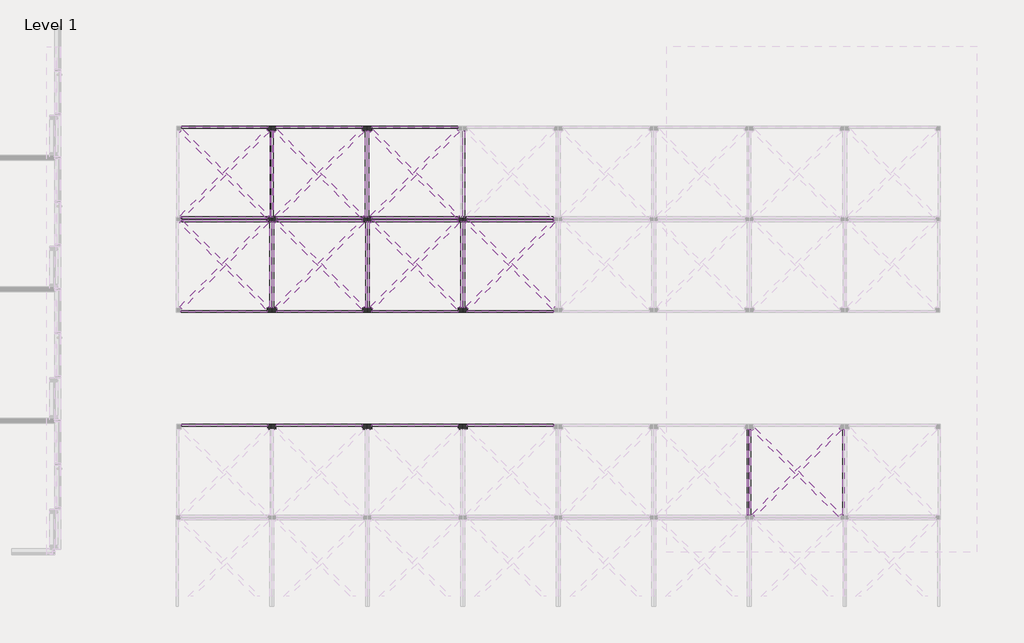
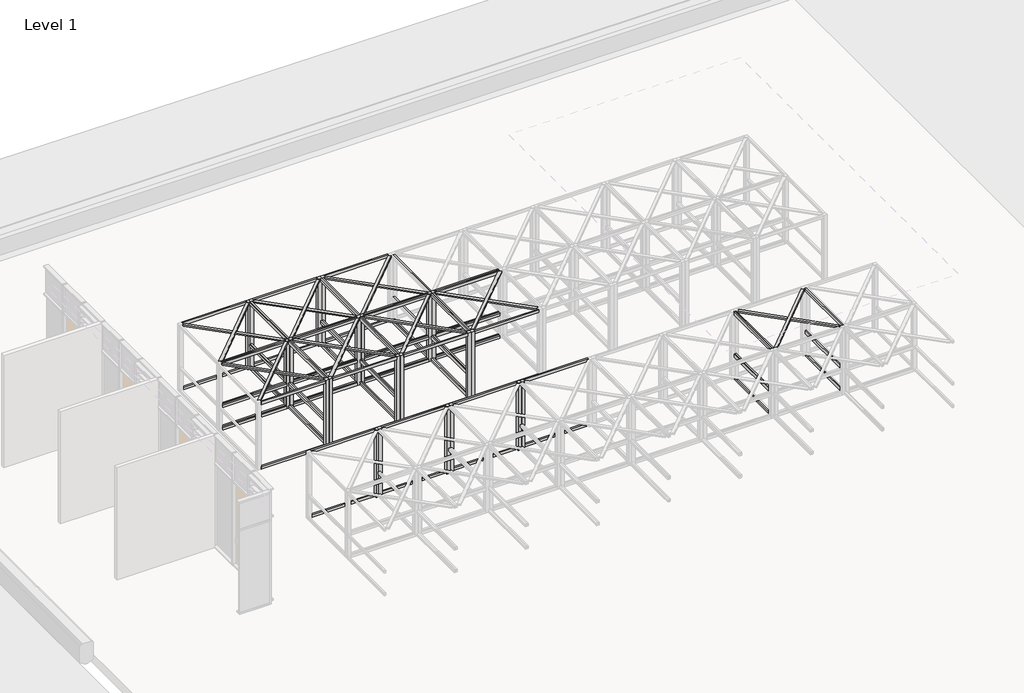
# One storey, part 23 of 32: 104 beams, 28 columns.
"""IFC4 building model written with IfcOpenShell, lengths in millimetres."""

from ifc_helpers import new_model, si_unit, origin, place, context, project, spatial, transform, mapped, element, save
from components import timber_gauged_nz_100_x_50_a05adcf6, timber_gauged_nz_100_x_50_e4b9d06e, timber_gauged_nz_100_x_50_66b63d81, timber_gauged_nz_100_x_50_718b6390, timber_gauged_nz_100_x_50_7774ab14, timber_gauged_nz_100_x_50_be6c7ca1, timber_gauged_nz_100_x_50_6be5a70a, timber_gauged_nz_100_x_50_7b7bee40, timber_gauged_nz_100_x_50_flat_212af973, timber_gauged_nz_100_x_50_flat_8016973c, column_timber_m_114x114_3b5997c2

model = new_model("IFC4")

# Units and contexts
model_context = context("Model", 3, world=origin())
ifc_project = project(units=[si_unit("LENGTHUNIT", "METRE", prefix="MILLI")], contexts=[model_context])

# Site, building, storey
site = spatial("IfcSite", under=ifc_project)
building = spatial("IfcBuilding", under=site)
storey = spatial("IfcBuildingStorey", under=building, Name="Level 1", Elevation=2800.0)

# Beams
placement = place(None, origin())
timber_gauged_nz_100_x_50_shape = timber_gauged_nz_100_x_50_a05adcf6(model_context)
element("IfcBeam", 1, ObjectType="Timber Gauged (NZ) : 100 x 50", at=placement, inside=storey, context=model_context, shape_type="MappedRepresentation", body=[
    mapped(timber_gauged_nz_100_x_50_shape, transform((-79599.6556755, -2611.9011548, 2847.0), x_axis=(1.0, 0.0, 0.0), y_axis=(0.0, 1.0, 0.0), z_axis=(0.0, 0.0, 1.0))),
])
element("IfcBeam", 2, ObjectType="Timber Gauged (NZ) : 100 x 50", at=placement, inside=storey, context=model_context, shape_type="MappedRepresentation", body=[
    mapped(timber_gauged_nz_100_x_50_shape, transform((-77195.3056755, -2611.9011548, 2847.0), x_axis=(1.0, 0.0, 0.0), y_axis=(0.0, 1.0, 0.0), z_axis=(0.0, 0.0, 1.0))),
])
element("IfcBeam", 3, ObjectType="Timber Gauged (NZ) : 100 x 50", at=placement, inside=storey, context=model_context, shape_type="MappedRepresentation", body=[
    mapped(timber_gauged_nz_100_x_50_shape, transform((-74799.6556755, -2611.9011548, 2847.0), x_axis=(1.0, 0.0, 0.0), y_axis=(0.0, 1.0, 0.0), z_axis=(0.0, 0.0, 1.0))),
])
element("IfcBeam", 4, ObjectType="Timber Gauged (NZ) : 100 x 50", at=placement, inside=storey, context=model_context, shape_type="MappedRepresentation", body=[
    mapped(timber_gauged_nz_100_x_50_shape, transform((-72399.6556755, -2611.9011548, 2847.0), x_axis=(1.0, 0.0, 0.0), y_axis=(0.0, 1.0, 0.0), z_axis=(0.0, 0.0, 1.0))),
])
element("IfcBeam", 5, ObjectType="Timber Gauged (NZ) : 100 x 50", at=placement, inside=storey, context=model_context, shape_type="MappedRepresentation", body=[
    mapped(timber_gauged_nz_100_x_50_shape, transform((-72399.6556755, -2682.1175809, 2847.0), x_axis=(-1.0, 0.0, 0.0), y_axis=(0.0, -1.0, 0.0), z_axis=(0.0, 0.0, 1.0))),
])
element("IfcBeam", 6, ObjectType="Timber Gauged (NZ) : 100 x 50", at=placement, inside=storey, context=model_context, shape_type="MappedRepresentation", body=[
    mapped(timber_gauged_nz_100_x_50_shape, transform((-74804.0056755, -2682.1175809, 2847.0), x_axis=(-1.0, 0.0, 0.0), y_axis=(0.0, -1.0, 0.0), z_axis=(0.0, 0.0, 1.0))),
])
element("IfcBeam", 7, ObjectType="Timber Gauged (NZ) : 100 x 50", at=placement, inside=storey, context=model_context, shape_type="MappedRepresentation", body=[
    mapped(timber_gauged_nz_100_x_50_shape, transform((-77208.3556755, -2682.1175809, 2847.0), x_axis=(-1.0, 0.0, 0.0), y_axis=(0.0, -1.0, 0.0), z_axis=(0.0, 0.0, 1.0))),
])
element("IfcBeam", 8, ObjectType="Timber Gauged (NZ) : 100 x 50", at=placement, inside=storey, context=model_context, shape_type="MappedRepresentation", body=[
    mapped(timber_gauged_nz_100_x_50_shape, transform((-79588.3556755, -2682.1175809, 2847.0), x_axis=(-1.0, 0.0, 0.0), y_axis=(0.0, -1.0, 0.0), z_axis=(0.0, 0.0, 1.0))),
])
timber_gauged_nz_100_x_50_2_shape = timber_gauged_nz_100_x_50_e4b9d06e(model_context)
element("IfcBeam", 9, ObjectType="Timber Gauged (NZ) : 100 x 50", at=placement, inside=storey, context=model_context, shape_type="MappedRepresentation", body=[
    mapped(timber_gauged_nz_100_x_50_2_shape, transform((-72386.4806755, -7829.1175809, 2847.0), x_axis=(-1.0, 0.0, 0.0), y_axis=(0.0, -1.0, 0.0), z_axis=(0.0, 0.0, 1.0))),
])
element("IfcBeam", 10, ObjectType="Timber Gauged (NZ) : 100 x 50", at=placement, inside=storey, context=model_context, shape_type="MappedRepresentation", body=[
    mapped(timber_gauged_nz_100_x_50_2_shape, transform((-74790.8306755, -7829.1175809, 2847.0), x_axis=(-1.0, 0.0, 0.0), y_axis=(0.0, -1.0, 0.0), z_axis=(0.0, 0.0, 1.0))),
])
element("IfcBeam", 11, ObjectType="Timber Gauged (NZ) : 100 x 50", at=placement, inside=storey, context=model_context, shape_type="MappedRepresentation", body=[
    mapped(timber_gauged_nz_100_x_50_2_shape, transform((-77195.1806755, -7829.1175809, 2847.0), x_axis=(-1.0, 0.0, 0.0), y_axis=(0.0, -1.0, 0.0), z_axis=(0.0, 0.0, 1.0))),
])
element("IfcBeam", 12, ObjectType="Timber Gauged (NZ) : 100 x 50", at=placement, inside=storey, context=model_context, shape_type="MappedRepresentation", body=[
    mapped(timber_gauged_nz_100_x_50_2_shape, transform((-79575.1806755, -7829.1175809, 2847.0), x_axis=(-1.0, 0.0, 0.0), y_axis=(0.0, -1.0, 0.0), z_axis=(0.0, 0.0, 1.0))),
])
element("IfcBeam", 13, ObjectType="Timber Gauged (NZ) : 100 x 50", at=placement, inside=storey, context=model_context, shape_type="MappedRepresentation", body=[
    mapped(timber_gauged_nz_100_x_50_2_shape, transform((-79612.8306755, -4964.9011548, 2847.0), x_axis=(1.0, 0.0, 0.0), y_axis=(0.0, 1.0, 0.0), z_axis=(0.0, 0.0, 1.0))),
])
element("IfcBeam", 14, ObjectType="Timber Gauged (NZ) : 100 x 50", at=placement, inside=storey, context=model_context, shape_type="MappedRepresentation", body=[
    mapped(timber_gauged_nz_100_x_50_2_shape, transform((-77208.4806755, -4964.9011548, 2847.0), x_axis=(1.0, 0.0, 0.0), y_axis=(0.0, 1.0, 0.0), z_axis=(0.0, 0.0, 1.0))),
])
element("IfcBeam", 15, ObjectType="Timber Gauged (NZ) : 100 x 50", at=placement, inside=storey, context=model_context, shape_type="MappedRepresentation", body=[
    mapped(timber_gauged_nz_100_x_50_2_shape, transform((-74812.8306755, -4964.9011548, 2847.0), x_axis=(1.0, 0.0, 0.0), y_axis=(0.0, 1.0, 0.0), z_axis=(0.0, 0.0, 1.0))),
])
element("IfcBeam", 16, ObjectType="Timber Gauged (NZ) : 100 x 50", at=placement, inside=storey, context=model_context, shape_type="MappedRepresentation", body=[
    mapped(timber_gauged_nz_100_x_50_2_shape, transform((-72412.8306755, -4964.9011548, 2847.0), x_axis=(1.0, 0.0, 0.0), y_axis=(0.0, 1.0, 0.0), z_axis=(0.0, 0.0, 1.0))),
])
element("IfcBeam", 17, ObjectType="Timber Gauged (NZ) : 100 x 50", at=placement, inside=storey, context=model_context, shape_type="MappedRepresentation", body=[
    mapped(timber_gauged_nz_100_x_50_2_shape, transform((-74790.8306755, -329.1175809, 2847.0), x_axis=(-1.0, 0.0, 0.0), y_axis=(0.0, -1.0, 0.0), z_axis=(0.0, 0.0, 1.0))),
])
element("IfcBeam", 18, ObjectType="Timber Gauged (NZ) : 100 x 50", at=placement, inside=storey, context=model_context, shape_type="MappedRepresentation", body=[
    mapped(timber_gauged_nz_100_x_50_2_shape, transform((-77195.1806755, -329.1175809, 2847.0), x_axis=(-1.0, 0.0, 0.0), y_axis=(0.0, -1.0, 0.0), z_axis=(0.0, 0.0, 1.0))),
])
element("IfcBeam", 19, ObjectType="Timber Gauged (NZ) : 100 x 50", at=placement, inside=storey, context=model_context, shape_type="MappedRepresentation", body=[
    mapped(timber_gauged_nz_100_x_50_2_shape, transform((-79575.1806755, -329.1175809, 2847.0), x_axis=(-1.0, 0.0, 0.0), y_axis=(0.0, -1.0, 0.0), z_axis=(0.0, 0.0, 1.0))),
])
timber_gauged_nz_100_x_50_3_shape = timber_gauged_nz_100_x_50_66b63d81(model_context)
element("IfcBeam", 20, ObjectType="Timber Gauged (NZ) : 100 x 50", at=placement, inside=storey, context=model_context, shape_type="MappedRepresentation", body=[
    mapped(timber_gauged_nz_100_x_50_3_shape, transform((-64027.5056755, -9005.6175809, 2847.0), x_axis=(0.0, 1.0, 0.0), y_axis=(-1.0, 0.0, 0.0), z_axis=(0.0, 0.0, 1.0))),
])
element("IfcBeam", 21, ObjectType="Timber Gauged (NZ) : 100 x 50", at=placement, inside=storey, context=model_context, shape_type="MappedRepresentation", body=[
    mapped(timber_gauged_nz_100_x_50_3_shape, transform((-66423.1556755, -9005.6175809, 2847.0), x_axis=(0.0, 1.0, 0.0), y_axis=(-1.0, 0.0, 0.0), z_axis=(0.0, 0.0, 1.0))),
])
element("IfcBeam", 22, ObjectType="Timber Gauged (NZ) : 100 x 50", at=placement, inside=storey, context=model_context, shape_type="MappedRepresentation", body=[
    mapped(timber_gauged_nz_100_x_50_3_shape, transform((-78371.8056755, -3788.4011548, 2847.0), x_axis=(0.0, -1.0, 0.0), y_axis=(1.0, 0.0, 0.0), z_axis=(0.0, 0.0, 1.0))),
])
element("IfcBeam", 23, ObjectType="Timber Gauged (NZ) : 100 x 50", at=placement, inside=storey, context=model_context, shape_type="MappedRepresentation", body=[
    mapped(timber_gauged_nz_100_x_50_3_shape, transform((-75976.1556755, -3788.4011548, 2847.0), x_axis=(0.0, -1.0, 0.0), y_axis=(1.0, 0.0, 0.0), z_axis=(0.0, 0.0, 1.0))),
])
element("IfcBeam", 24, ObjectType="Timber Gauged (NZ) : 100 x 50", at=placement, inside=storey, context=model_context, shape_type="MappedRepresentation", body=[
    mapped(timber_gauged_nz_100_x_50_3_shape, transform((-73576.1556755, -3788.4011548, 2847.0), x_axis=(0.0, -1.0, 0.0), y_axis=(1.0, 0.0, 0.0), z_axis=(0.0, 0.0, 1.0))),
])
element("IfcBeam", 25, ObjectType="Timber Gauged (NZ) : 100 x 50", at=placement, inside=storey, context=model_context, shape_type="MappedRepresentation", body=[
    mapped(timber_gauged_nz_100_x_50_3_shape, transform((-73627.5056755, -1505.6175809, 2847.0), x_axis=(0.0, 1.0, 0.0), y_axis=(-1.0, 0.0, 0.0), z_axis=(0.0, 0.0, 1.0))),
])
element("IfcBeam", 26, ObjectType="Timber Gauged (NZ) : 100 x 50", at=placement, inside=storey, context=model_context, shape_type="MappedRepresentation", body=[
    mapped(timber_gauged_nz_100_x_50_3_shape, transform((-76031.8556755, -1505.6175809, 2847.0), x_axis=(0.0, 1.0, 0.0), y_axis=(-1.0, 0.0, 0.0), z_axis=(0.0, 0.0, 1.0))),
])
element("IfcBeam", 27, ObjectType="Timber Gauged (NZ) : 100 x 50", at=placement, inside=storey, context=model_context, shape_type="MappedRepresentation", body=[
    mapped(timber_gauged_nz_100_x_50_3_shape, transform((-78411.8556755, -1505.6175809, 2847.0), x_axis=(0.0, 1.0, 0.0), y_axis=(-1.0, 0.0, 0.0), z_axis=(0.0, 0.0, 1.0))),
])
element("IfcBeam", 28, ObjectType="Timber Gauged (NZ) : 100 x 50", at=placement, inside=storey, context=model_context, shape_type="MappedRepresentation", body=[
    mapped(timber_gauged_nz_100_x_50_3_shape, transform((-78423.1556755, -3788.4011548, 2847.0), x_axis=(0.0, -1.0, 0.0), y_axis=(1.0, 0.0, 0.0), z_axis=(0.0, 0.0, 1.0))),
])
element("IfcBeam", 29, ObjectType="Timber Gauged (NZ) : 100 x 50", at=placement, inside=storey, context=model_context, shape_type="MappedRepresentation", body=[
    mapped(timber_gauged_nz_100_x_50_3_shape, transform((-76018.8056755, -3788.4011548, 2847.0), x_axis=(0.0, -1.0, 0.0), y_axis=(1.0, 0.0, 0.0), z_axis=(0.0, 0.0, 1.0))),
])
element("IfcBeam", 30, ObjectType="Timber Gauged (NZ) : 100 x 50", at=placement, inside=storey, context=model_context, shape_type="MappedRepresentation", body=[
    mapped(timber_gauged_nz_100_x_50_3_shape, transform((-73623.1556755, -3788.4011548, 2847.0), x_axis=(0.0, -1.0, 0.0), y_axis=(1.0, 0.0, 0.0), z_axis=(0.0, 0.0, 1.0))),
])
element("IfcBeam", 31, ObjectType="Timber Gauged (NZ) : 100 x 50", at=placement, inside=storey, context=model_context, shape_type="MappedRepresentation", body=[
    mapped(timber_gauged_nz_100_x_50_3_shape, transform((-73576.1556755, -1505.6175809, 2847.0), x_axis=(0.0, 1.0, 0.0), y_axis=(-1.0, 0.0, 0.0), z_axis=(0.0, 0.0, 1.0))),
])
element("IfcBeam", 32, ObjectType="Timber Gauged (NZ) : 100 x 50", at=placement, inside=storey, context=model_context, shape_type="MappedRepresentation", body=[
    mapped(timber_gauged_nz_100_x_50_3_shape, transform((-75980.5056755, -1505.6175809, 2847.0), x_axis=(0.0, 1.0, 0.0), y_axis=(-1.0, 0.0, 0.0), z_axis=(0.0, 0.0, 1.0))),
])
element("IfcBeam", 33, ObjectType="Timber Gauged (NZ) : 100 x 50", at=placement, inside=storey, context=model_context, shape_type="MappedRepresentation", body=[
    mapped(timber_gauged_nz_100_x_50_3_shape, transform((-78384.8556755, -1505.6175809, 2847.0), x_axis=(0.0, 1.0, 0.0), y_axis=(-1.0, 0.0, 0.0), z_axis=(0.0, 0.0, 1.0))),
])
timber_gauged_nz_100_x_50_4_shape = timber_gauged_nz_100_x_50_718b6390(model_context)
element("IfcBeam", 34, ObjectType="Timber Gauged (NZ) : 100 x 50", at=placement, inside=storey, context=model_context, shape_type="MappedRepresentation", body=[
    mapped(timber_gauged_nz_100_x_50_4_shape, transform((-79607.5056755, -2611.9011548, 5153.0), x_axis=(1.0, 0.0, 0.0), y_axis=(0.0, 1.0, 0.0), z_axis=(0.0, 0.0, 1.0))),
])
element("IfcBeam", 35, ObjectType="Timber Gauged (NZ) : 100 x 50", at=placement, inside=storey, context=model_context, shape_type="MappedRepresentation", body=[
    mapped(timber_gauged_nz_100_x_50_4_shape, transform((-79607.5056755, -2611.9011548, 3653.0), x_axis=(1.0, 0.0, 0.0), y_axis=(0.0, 1.0, 0.0), z_axis=(0.0, 0.0, 1.0))),
])
element("IfcBeam", 36, ObjectType="Timber Gauged (NZ) : 100 x 50", at=placement, inside=storey, context=model_context, shape_type="MappedRepresentation", body=[
    mapped(timber_gauged_nz_100_x_50_4_shape, transform((-77203.1556755, -2611.9011548, 5153.0), x_axis=(1.0, 0.0, 0.0), y_axis=(0.0, 1.0, 0.0), z_axis=(0.0, 0.0, 1.0))),
])
element("IfcBeam", 37, ObjectType="Timber Gauged (NZ) : 100 x 50", at=placement, inside=storey, context=model_context, shape_type="MappedRepresentation", body=[
    mapped(timber_gauged_nz_100_x_50_4_shape, transform((-77203.1556755, -2611.9011548, 3653.0), x_axis=(1.0, 0.0, 0.0), y_axis=(0.0, 1.0, 0.0), z_axis=(0.0, 0.0, 1.0))),
])
element("IfcBeam", 38, ObjectType="Timber Gauged (NZ) : 100 x 50", at=placement, inside=storey, context=model_context, shape_type="MappedRepresentation", body=[
    mapped(timber_gauged_nz_100_x_50_4_shape, transform((-74807.5056755, -2611.9011548, 5153.0), x_axis=(1.0, 0.0, 0.0), y_axis=(0.0, 1.0, 0.0), z_axis=(0.0, 0.0, 1.0))),
])
element("IfcBeam", 39, ObjectType="Timber Gauged (NZ) : 100 x 50", at=placement, inside=storey, context=model_context, shape_type="MappedRepresentation", body=[
    mapped(timber_gauged_nz_100_x_50_4_shape, transform((-74807.5056755, -2611.9011548, 3653.0), x_axis=(1.0, 0.0, 0.0), y_axis=(0.0, 1.0, 0.0), z_axis=(0.0, 0.0, 1.0))),
])
element("IfcBeam", 40, ObjectType="Timber Gauged (NZ) : 100 x 50", at=placement, inside=storey, context=model_context, shape_type="MappedRepresentation", body=[
    mapped(timber_gauged_nz_100_x_50_4_shape, transform((-72407.5056755, -2611.9011548, 5153.0), x_axis=(1.0, 0.0, 0.0), y_axis=(0.0, 1.0, 0.0), z_axis=(0.0, 0.0, 1.0))),
])
element("IfcBeam", 41, ObjectType="Timber Gauged (NZ) : 100 x 50", at=placement, inside=storey, context=model_context, shape_type="MappedRepresentation", body=[
    mapped(timber_gauged_nz_100_x_50_4_shape, transform((-72407.5056755, -2611.9011548, 3653.0), x_axis=(1.0, 0.0, 0.0), y_axis=(0.0, 1.0, 0.0), z_axis=(0.0, 0.0, 1.0))),
])
element("IfcBeam", 42, ObjectType="Timber Gauged (NZ) : 100 x 50", at=placement, inside=storey, context=model_context, shape_type="MappedRepresentation", body=[
    mapped(timber_gauged_nz_100_x_50_4_shape, transform((-72391.8056755, -2682.1175809, 5153.0), x_axis=(-1.0, 0.0, 0.0), y_axis=(0.0, -1.0, 0.0), z_axis=(0.0, 0.0, 1.0))),
])
element("IfcBeam", 43, ObjectType="Timber Gauged (NZ) : 100 x 50", at=placement, inside=storey, context=model_context, shape_type="MappedRepresentation", body=[
    mapped(timber_gauged_nz_100_x_50_4_shape, transform((-72391.8056755, -2682.1175809, 3653.0), x_axis=(-1.0, 0.0, 0.0), y_axis=(0.0, -1.0, 0.0), z_axis=(0.0, 0.0, 1.0))),
])
element("IfcBeam", 44, ObjectType="Timber Gauged (NZ) : 100 x 50", at=placement, inside=storey, context=model_context, shape_type="MappedRepresentation", body=[
    mapped(timber_gauged_nz_100_x_50_4_shape, transform((-74796.1556755, -2682.1175809, 5153.0), x_axis=(-1.0, 0.0, 0.0), y_axis=(0.0, -1.0, 0.0), z_axis=(0.0, 0.0, 1.0))),
])
element("IfcBeam", 45, ObjectType="Timber Gauged (NZ) : 100 x 50", at=placement, inside=storey, context=model_context, shape_type="MappedRepresentation", body=[
    mapped(timber_gauged_nz_100_x_50_4_shape, transform((-74796.1556755, -2682.1175809, 3653.0), x_axis=(-1.0, 0.0, 0.0), y_axis=(0.0, -1.0, 0.0), z_axis=(0.0, 0.0, 1.0))),
])
element("IfcBeam", 46, ObjectType="Timber Gauged (NZ) : 100 x 50", at=placement, inside=storey, context=model_context, shape_type="MappedRepresentation", body=[
    mapped(timber_gauged_nz_100_x_50_4_shape, transform((-77200.5056755, -2682.1175809, 5153.0), x_axis=(-1.0, 0.0, 0.0), y_axis=(0.0, -1.0, 0.0), z_axis=(0.0, 0.0, 1.0))),
])
element("IfcBeam", 47, ObjectType="Timber Gauged (NZ) : 100 x 50", at=placement, inside=storey, context=model_context, shape_type="MappedRepresentation", body=[
    mapped(timber_gauged_nz_100_x_50_4_shape, transform((-77200.5056755, -2682.1175809, 3653.0), x_axis=(-1.0, 0.0, 0.0), y_axis=(0.0, -1.0, 0.0), z_axis=(0.0, 0.0, 1.0))),
])
element("IfcBeam", 48, ObjectType="Timber Gauged (NZ) : 100 x 50", at=placement, inside=storey, context=model_context, shape_type="MappedRepresentation", body=[
    mapped(timber_gauged_nz_100_x_50_4_shape, transform((-79580.5056755, -2682.1175809, 5153.0), x_axis=(-1.0, 0.0, 0.0), y_axis=(0.0, -1.0, 0.0), z_axis=(0.0, 0.0, 1.0))),
])
element("IfcBeam", 49, ObjectType="Timber Gauged (NZ) : 100 x 50", at=placement, inside=storey, context=model_context, shape_type="MappedRepresentation", body=[
    mapped(timber_gauged_nz_100_x_50_4_shape, transform((-79580.5056755, -2682.1175809, 3653.0), x_axis=(-1.0, 0.0, 0.0), y_axis=(0.0, -1.0, 0.0), z_axis=(0.0, 0.0, 1.0))),
])
timber_gauged_nz_100_x_50_5_shape = timber_gauged_nz_100_x_50_7774ab14(model_context)
element("IfcBeam", 50, ObjectType="Timber Gauged (NZ) : 100 x 50", at=placement, inside=storey, context=model_context, shape_type="MappedRepresentation", body=[
    mapped(timber_gauged_nz_100_x_50_5_shape, transform((-72404.3056755, -7829.1175809, 5153.0), x_axis=(-1.0, 0.0, 0.0), y_axis=(0.0, -1.0, 0.0), z_axis=(0.0, 0.0, 1.0))),
])
element("IfcBeam", 51, ObjectType="Timber Gauged (NZ) : 100 x 50", at=placement, inside=storey, context=model_context, shape_type="MappedRepresentation", body=[
    mapped(timber_gauged_nz_100_x_50_5_shape, transform((-74808.6556755, -7829.1175809, 5153.0), x_axis=(-1.0, 0.0, 0.0), y_axis=(0.0, -1.0, 0.0), z_axis=(0.0, 0.0, 1.0))),
])
element("IfcBeam", 52, ObjectType="Timber Gauged (NZ) : 100 x 50", at=placement, inside=storey, context=model_context, shape_type="MappedRepresentation", body=[
    mapped(timber_gauged_nz_100_x_50_5_shape, transform((-77213.0056755, -7829.1175809, 5153.0), x_axis=(-1.0, 0.0, 0.0), y_axis=(0.0, -1.0, 0.0), z_axis=(0.0, 0.0, 1.0))),
])
element("IfcBeam", 53, ObjectType="Timber Gauged (NZ) : 100 x 50", at=placement, inside=storey, context=model_context, shape_type="MappedRepresentation", body=[
    mapped(timber_gauged_nz_100_x_50_5_shape, transform((-79593.0056755, -7829.1175809, 5153.0), x_axis=(-1.0, 0.0, 0.0), y_axis=(0.0, -1.0, 0.0), z_axis=(0.0, 0.0, 1.0))),
])
element("IfcBeam", 54, ObjectType="Timber Gauged (NZ) : 100 x 50", at=placement, inside=storey, context=model_context, shape_type="MappedRepresentation", body=[
    mapped(timber_gauged_nz_100_x_50_5_shape, transform((-79595.0056755, -4964.9011548, 5153.0), x_axis=(1.0, 0.0, 0.0), y_axis=(0.0, 1.0, 0.0), z_axis=(0.0, 0.0, 1.0))),
])
element("IfcBeam", 55, ObjectType="Timber Gauged (NZ) : 100 x 50", at=placement, inside=storey, context=model_context, shape_type="MappedRepresentation", body=[
    mapped(timber_gauged_nz_100_x_50_5_shape, transform((-77190.6556755, -4964.9011548, 5153.0), x_axis=(1.0, 0.0, 0.0), y_axis=(0.0, 1.0, 0.0), z_axis=(0.0, 0.0, 1.0))),
])
element("IfcBeam", 56, ObjectType="Timber Gauged (NZ) : 100 x 50", at=placement, inside=storey, context=model_context, shape_type="MappedRepresentation", body=[
    mapped(timber_gauged_nz_100_x_50_5_shape, transform((-74795.0056755, -4964.9011548, 5153.0), x_axis=(1.0, 0.0, 0.0), y_axis=(0.0, 1.0, 0.0), z_axis=(0.0, 0.0, 1.0))),
])
element("IfcBeam", 57, ObjectType="Timber Gauged (NZ) : 100 x 50", at=placement, inside=storey, context=model_context, shape_type="MappedRepresentation", body=[
    mapped(timber_gauged_nz_100_x_50_5_shape, transform((-72395.0056755, -4964.9011548, 5153.0), x_axis=(1.0, 0.0, 0.0), y_axis=(0.0, 1.0, 0.0), z_axis=(0.0, 0.0, 1.0))),
])
element("IfcBeam", 58, ObjectType="Timber Gauged (NZ) : 100 x 50", at=placement, inside=storey, context=model_context, shape_type="MappedRepresentation", body=[
    mapped(timber_gauged_nz_100_x_50_5_shape, transform((-74808.6556755, -329.1175809, 5153.0), x_axis=(-1.0, 0.0, 0.0), y_axis=(0.0, -1.0, 0.0), z_axis=(0.0, 0.0, 1.0))),
])
element("IfcBeam", 59, ObjectType="Timber Gauged (NZ) : 100 x 50", at=placement, inside=storey, context=model_context, shape_type="MappedRepresentation", body=[
    mapped(timber_gauged_nz_100_x_50_5_shape, transform((-77213.0056755, -329.1175809, 5153.0), x_axis=(-1.0, 0.0, 0.0), y_axis=(0.0, -1.0, 0.0), z_axis=(0.0, 0.0, 1.0))),
])
element("IfcBeam", 60, ObjectType="Timber Gauged (NZ) : 100 x 50", at=placement, inside=storey, context=model_context, shape_type="MappedRepresentation", body=[
    mapped(timber_gauged_nz_100_x_50_5_shape, transform((-79593.0056755, -329.1175809, 5153.0), x_axis=(-1.0, 0.0, 0.0), y_axis=(0.0, -1.0, 0.0), z_axis=(0.0, 0.0, 1.0))),
])
timber_gauged_nz_100_x_50_6_shape = timber_gauged_nz_100_x_50_be6c7ca1(model_context)
element("IfcBeam", 61, ObjectType="Timber Gauged (NZ) : 100 x 50", at=placement, inside=storey, context=model_context, shape_type="MappedRepresentation", body=[
    mapped(timber_gauged_nz_100_x_50_6_shape, transform((-64027.5056755, -9074.1175809, 5153.0), x_axis=(0.0, 1.0, 0.0), y_axis=(-1.0, 0.0, 0.0), z_axis=(0.0, 0.0, 1.0))),
])
element("IfcBeam", 62, ObjectType="Timber Gauged (NZ) : 100 x 50", at=placement, inside=storey, context=model_context, shape_type="MappedRepresentation", body=[
    mapped(timber_gauged_nz_100_x_50_6_shape, transform((-66423.1556755, -9074.1175809, 5153.0), x_axis=(0.0, 1.0, 0.0), y_axis=(-1.0, 0.0, 0.0), z_axis=(0.0, 0.0, 1.0))),
])
element("IfcBeam", 63, ObjectType="Timber Gauged (NZ) : 100 x 50", at=placement, inside=storey, context=model_context, shape_type="MappedRepresentation", body=[
    mapped(timber_gauged_nz_100_x_50_6_shape, transform((-78371.8056755, -3719.9011548, 5153.0), x_axis=(0.0, -1.0, 0.0), y_axis=(1.0, 0.0, 0.0), z_axis=(0.0, 0.0, 1.0))),
])
element("IfcBeam", 64, ObjectType="Timber Gauged (NZ) : 100 x 50", at=placement, inside=storey, context=model_context, shape_type="MappedRepresentation", body=[
    mapped(timber_gauged_nz_100_x_50_6_shape, transform((-75976.1556755, -3719.9011548, 5153.0), x_axis=(0.0, -1.0, 0.0), y_axis=(1.0, 0.0, 0.0), z_axis=(0.0, 0.0, 1.0))),
])
element("IfcBeam", 65, ObjectType="Timber Gauged (NZ) : 100 x 50", at=placement, inside=storey, context=model_context, shape_type="MappedRepresentation", body=[
    mapped(timber_gauged_nz_100_x_50_6_shape, transform((-73576.1556755, -3719.9011548, 5153.0), x_axis=(0.0, -1.0, 0.0), y_axis=(1.0, 0.0, 0.0), z_axis=(0.0, 0.0, 1.0))),
])
element("IfcBeam", 66, ObjectType="Timber Gauged (NZ) : 100 x 50", at=placement, inside=storey, context=model_context, shape_type="MappedRepresentation", body=[
    mapped(timber_gauged_nz_100_x_50_6_shape, transform((-76031.8556755, -1574.1175809, 5153.0), x_axis=(0.0, 1.0, 0.0), y_axis=(-1.0, 0.0, 0.0), z_axis=(0.0, 0.0, 1.0))),
])
element("IfcBeam", 67, ObjectType="Timber Gauged (NZ) : 100 x 50", at=placement, inside=storey, context=model_context, shape_type="MappedRepresentation", body=[
    mapped(timber_gauged_nz_100_x_50_6_shape, transform((-78411.8556755, -1574.1175809, 5153.0), x_axis=(0.0, 1.0, 0.0), y_axis=(-1.0, 0.0, 0.0), z_axis=(0.0, 0.0, 1.0))),
])
timber_gauged_nz_100_x_50_7_shape = timber_gauged_nz_100_x_50_6be5a70a(model_context)
element("IfcBeam", 68, ObjectType="Timber Gauged (NZ) : 100 x 50", at=placement, inside=storey, context=model_context, shape_type="MappedRepresentation", body=[
    mapped(timber_gauged_nz_100_x_50_7_shape, transform((-66380.5056755, -9029.1175809, 5153.0), x_axis=(0.0, 1.0, 0.0), y_axis=(-1.0, 0.0, 0.0), z_axis=(0.0, 0.0, 1.0))),
])
element("IfcBeam", 69, ObjectType="Timber Gauged (NZ) : 100 x 50", at=placement, inside=storey, context=model_context, shape_type="MappedRepresentation", body=[
    mapped(timber_gauged_nz_100_x_50_7_shape, transform((-78423.1556755, -3764.9011548, 5153.0), x_axis=(0.0, -1.0, 0.0), y_axis=(1.0, 0.0, 0.0), z_axis=(0.0, 0.0, 1.0))),
])
element("IfcBeam", 70, ObjectType="Timber Gauged (NZ) : 100 x 50", at=placement, inside=storey, context=model_context, shape_type="MappedRepresentation", body=[
    mapped(timber_gauged_nz_100_x_50_7_shape, transform((-76018.8056755, -3764.9011548, 5153.0), x_axis=(0.0, -1.0, 0.0), y_axis=(1.0, 0.0, 0.0), z_axis=(0.0, 0.0, 1.0))),
])
element("IfcBeam", 71, ObjectType="Timber Gauged (NZ) : 100 x 50", at=placement, inside=storey, context=model_context, shape_type="MappedRepresentation", body=[
    mapped(timber_gauged_nz_100_x_50_7_shape, transform((-73623.1556755, -3764.9011548, 5153.0), x_axis=(0.0, -1.0, 0.0), y_axis=(1.0, 0.0, 0.0), z_axis=(0.0, 0.0, 1.0))),
])
element("IfcBeam", 72, ObjectType="Timber Gauged (NZ) : 100 x 50", at=placement, inside=storey, context=model_context, shape_type="MappedRepresentation", body=[
    mapped(timber_gauged_nz_100_x_50_7_shape, transform((-73576.1556755, -1529.1175809, 5153.0), x_axis=(0.0, 1.0, 0.0), y_axis=(-1.0, 0.0, 0.0), z_axis=(0.0, 0.0, 1.0))),
])
element("IfcBeam", 73, ObjectType="Timber Gauged (NZ) : 100 x 50", at=placement, inside=storey, context=model_context, shape_type="MappedRepresentation", body=[
    mapped(timber_gauged_nz_100_x_50_7_shape, transform((-75980.5056755, -1529.1175809, 5153.0), x_axis=(0.0, 1.0, 0.0), y_axis=(-1.0, 0.0, 0.0), z_axis=(0.0, 0.0, 1.0))),
])
element("IfcBeam", 74, ObjectType="Timber Gauged (NZ) : 100 x 50", at=placement, inside=storey, context=model_context, shape_type="MappedRepresentation", body=[
    mapped(timber_gauged_nz_100_x_50_7_shape, transform((-78384.8556755, -1529.1175809, 5153.0), x_axis=(0.0, 1.0, 0.0), y_axis=(-1.0, 0.0, 0.0), z_axis=(0.0, 0.0, 1.0))),
])
timber_gauged_nz_100_x_50_8_shape = timber_gauged_nz_100_x_50_7b7bee40(model_context)
element("IfcBeam", 75, ObjectType="Timber Gauged (NZ) : 100 x 50", at=placement, inside=storey, context=model_context, shape_type="MappedRepresentation", body=[
    mapped(timber_gauged_nz_100_x_50_8_shape, transform((-64027.5056755, -8949.1175809, 3653.0), x_axis=(0.0, 1.0, 0.0), y_axis=(-1.0, 0.0, 0.0), z_axis=(0.0, 0.0, 1.0))),
])
element("IfcBeam", 76, ObjectType="Timber Gauged (NZ) : 100 x 50", at=placement, inside=storey, context=model_context, shape_type="MappedRepresentation", body=[
    mapped(timber_gauged_nz_100_x_50_8_shape, transform((-66423.1556755, -8949.1175809, 3653.0), x_axis=(0.0, 1.0, 0.0), y_axis=(-1.0, 0.0, 0.0), z_axis=(0.0, 0.0, 1.0))),
])
element("IfcBeam", 77, ObjectType="Timber Gauged (NZ) : 100 x 50", at=placement, inside=storey, context=model_context, shape_type="MappedRepresentation", body=[
    mapped(timber_gauged_nz_100_x_50_8_shape, transform((-78371.8056755, -3844.9011548, 3653.0), x_axis=(0.0, -1.0, 0.0), y_axis=(1.0, 0.0, 0.0), z_axis=(0.0, 0.0, 1.0))),
])
element("IfcBeam", 78, ObjectType="Timber Gauged (NZ) : 100 x 50", at=placement, inside=storey, context=model_context, shape_type="MappedRepresentation", body=[
    mapped(timber_gauged_nz_100_x_50_8_shape, transform((-75976.1556755, -3844.9011548, 3653.0), x_axis=(0.0, -1.0, 0.0), y_axis=(1.0, 0.0, 0.0), z_axis=(0.0, 0.0, 1.0))),
])
element("IfcBeam", 79, ObjectType="Timber Gauged (NZ) : 100 x 50", at=placement, inside=storey, context=model_context, shape_type="MappedRepresentation", body=[
    mapped(timber_gauged_nz_100_x_50_8_shape, transform((-73576.1556755, -3844.9011548, 3653.0), x_axis=(0.0, -1.0, 0.0), y_axis=(1.0, 0.0, 0.0), z_axis=(0.0, 0.0, 1.0))),
])
element("IfcBeam", 80, ObjectType="Timber Gauged (NZ) : 100 x 50", at=placement, inside=storey, context=model_context, shape_type="MappedRepresentation", body=[
    mapped(timber_gauged_nz_100_x_50_8_shape, transform((-76031.8556755, -1449.1175809, 3653.0), x_axis=(0.0, 1.0, 0.0), y_axis=(-1.0, 0.0, 0.0), z_axis=(0.0, 0.0, 1.0))),
])
element("IfcBeam", 81, ObjectType="Timber Gauged (NZ) : 100 x 50", at=placement, inside=storey, context=model_context, shape_type="MappedRepresentation", body=[
    mapped(timber_gauged_nz_100_x_50_8_shape, transform((-78411.8556755, -1449.1175809, 3653.0), x_axis=(0.0, 1.0, 0.0), y_axis=(-1.0, 0.0, 0.0), z_axis=(0.0, 0.0, 1.0))),
])
element("IfcBeam", 82, ObjectType="Timber Gauged (NZ) : 100 x 50", at=placement, inside=storey, context=model_context, shape_type="MappedRepresentation", body=[
    mapped(timber_gauged_nz_100_x_50_7_shape, transform((-66380.5056755, -9029.3175809, 3653.0), x_axis=(0.0, 1.0, 0.0), y_axis=(-1.0, 0.0, 0.0), z_axis=(0.0, 0.0, 1.0))),
])
element("IfcBeam", 83, ObjectType="Timber Gauged (NZ) : 100 x 50", at=placement, inside=storey, context=model_context, shape_type="MappedRepresentation", body=[
    mapped(timber_gauged_nz_100_x_50_7_shape, transform((-78423.1556755, -3764.7011548, 3653.0), x_axis=(0.0, -1.0, 0.0), y_axis=(1.0, 0.0, 0.0), z_axis=(0.0, 0.0, 1.0))),
])
element("IfcBeam", 84, ObjectType="Timber Gauged (NZ) : 100 x 50", at=placement, inside=storey, context=model_context, shape_type="MappedRepresentation", body=[
    mapped(timber_gauged_nz_100_x_50_7_shape, transform((-76018.8056755, -3764.7011548, 3653.0), x_axis=(0.0, -1.0, 0.0), y_axis=(1.0, 0.0, 0.0), z_axis=(0.0, 0.0, 1.0))),
])
element("IfcBeam", 85, ObjectType="Timber Gauged (NZ) : 100 x 50", at=placement, inside=storey, context=model_context, shape_type="MappedRepresentation", body=[
    mapped(timber_gauged_nz_100_x_50_7_shape, transform((-73623.1556755, -3764.7011548, 3653.0), x_axis=(0.0, -1.0, 0.0), y_axis=(1.0, 0.0, 0.0), z_axis=(0.0, 0.0, 1.0))),
])
element("IfcBeam", 86, ObjectType="Timber Gauged (NZ) : 100 x 50", at=placement, inside=storey, context=model_context, shape_type="MappedRepresentation", body=[
    mapped(timber_gauged_nz_100_x_50_7_shape, transform((-73576.1556755, -1529.3175809, 3653.0), x_axis=(0.0, 1.0, 0.0), y_axis=(-1.0, 0.0, 0.0), z_axis=(0.0, 0.0, 1.0))),
])
element("IfcBeam", 87, ObjectType="Timber Gauged (NZ) : 100 x 50", at=placement, inside=storey, context=model_context, shape_type="MappedRepresentation", body=[
    mapped(timber_gauged_nz_100_x_50_7_shape, transform((-75980.5056755, -1529.3175809, 3653.0), x_axis=(0.0, 1.0, 0.0), y_axis=(-1.0, 0.0, 0.0), z_axis=(0.0, 0.0, 1.0))),
])
element("IfcBeam", 88, ObjectType="Timber Gauged (NZ) : 100 x 50", at=placement, inside=storey, context=model_context, shape_type="MappedRepresentation", body=[
    mapped(timber_gauged_nz_100_x_50_7_shape, transform((-78384.8556755, -1529.3175809, 3653.0), x_axis=(0.0, 1.0, 0.0), y_axis=(-1.0, 0.0, 0.0), z_axis=(0.0, 0.0, 1.0))),
])
timber_gauged_nz_100_x_50_flat_shape = timber_gauged_nz_100_x_50_flat_212af973(model_context)
element("IfcBeam", 89, ObjectType="Timber Gauged (NZ) : 100 x 50 Flat", at=placement, inside=storey, context=model_context, shape_type="MappedRepresentation", body=[
    mapped(timber_gauged_nz_100_x_50_flat_shape, transform((-65208.2463365, -9010.5048659, 5176.5), x_axis=(-0.7071067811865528, -0.7071067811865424, 0.0), y_axis=(0.7071067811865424, -0.7071067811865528, 0.0), z_axis=(0.0, 0.0, 1.0))),
])
element("IfcBeam", 90, ObjectType="Timber Gauged (NZ) : 100 x 50 Flat", at=placement, inside=storey, context=model_context, shape_type="MappedRepresentation", body=[
    mapped(timber_gauged_nz_100_x_50_flat_shape, transform((-79595.4150144, -3783.5138698, 5176.5), x_axis=(0.707106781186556, 0.7071067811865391, 0.0), y_axis=(-0.7071067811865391, 0.707106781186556, 0.0), z_axis=(0.0, 0.0, 1.0))),
])
element("IfcBeam", 91, ObjectType="Timber Gauged (NZ) : 100 x 50 Flat", at=placement, inside=storey, context=model_context, shape_type="MappedRepresentation", body=[
    mapped(timber_gauged_nz_100_x_50_flat_shape, transform((-77191.0650144, -3783.5138698, 5176.5), x_axis=(0.707106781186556, 0.7071067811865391, 0.0), y_axis=(-0.7071067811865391, 0.707106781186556, 0.0), z_axis=(0.0, 0.0, 1.0))),
])
element("IfcBeam", 92, ObjectType="Timber Gauged (NZ) : 100 x 50 Flat", at=placement, inside=storey, context=model_context, shape_type="MappedRepresentation", body=[
    mapped(timber_gauged_nz_100_x_50_flat_shape, transform((-74795.4150144, -3783.5138698, 5176.5), x_axis=(0.707106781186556, 0.7071067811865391, 0.0), y_axis=(-0.7071067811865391, 0.707106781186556, 0.0), z_axis=(0.0, 0.0, 1.0))),
])
element("IfcBeam", 93, ObjectType="Timber Gauged (NZ) : 100 x 50 Flat", at=placement, inside=storey, context=model_context, shape_type="MappedRepresentation", body=[
    mapped(timber_gauged_nz_100_x_50_flat_shape, transform((-72395.4150144, -3783.5138698, 5176.5), x_axis=(0.707106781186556, 0.7071067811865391, 0.0), y_axis=(-0.7071067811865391, 0.707106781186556, 0.0), z_axis=(0.0, 0.0, 1.0))),
])
element("IfcBeam", 94, ObjectType="Timber Gauged (NZ) : 100 x 50 Flat", at=placement, inside=storey, context=model_context, shape_type="MappedRepresentation", body=[
    mapped(timber_gauged_nz_100_x_50_flat_shape, transform((-74808.2463365, -1510.5048659, 5176.5), x_axis=(-0.7071067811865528, -0.7071067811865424, 0.0), y_axis=(0.7071067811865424, -0.7071067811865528, 0.0), z_axis=(0.0, 0.0, 1.0))),
])
element("IfcBeam", 95, ObjectType="Timber Gauged (NZ) : 100 x 50 Flat", at=placement, inside=storey, context=model_context, shape_type="MappedRepresentation", body=[
    mapped(timber_gauged_nz_100_x_50_flat_shape, transform((-77212.5963365, -1510.5048659, 5176.5), x_axis=(-0.7071067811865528, -0.7071067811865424, 0.0), y_axis=(0.7071067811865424, -0.7071067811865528, 0.0), z_axis=(0.0, 0.0, 1.0))),
])
element("IfcBeam", 96, ObjectType="Timber Gauged (NZ) : 100 x 50 Flat", at=placement, inside=storey, context=model_context, shape_type="MappedRepresentation", body=[
    mapped(timber_gauged_nz_100_x_50_flat_shape, transform((-79592.5963365, -1510.5048659, 5176.5), x_axis=(-0.7071067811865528, -0.7071067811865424, 0.0), y_axis=(0.7071067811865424, -0.7071067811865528, 0.0), z_axis=(0.0, 0.0, 1.0))),
])
timber_gauged_nz_100_x_50_flat_2_shape = timber_gauged_nz_100_x_50_flat_8016973c(model_context)
element("IfcBeam", 97, ObjectType="Timber Gauged (NZ) : 100 x 50 Flat", at=placement, inside=storey, context=model_context, shape_type="MappedRepresentation", body=[
    mapped(timber_gauged_nz_100_x_50_flat_2_shape, transform((-65154.5062211, -9055.7596999, 5176.5), x_axis=(-0.7071067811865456, 0.7071067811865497, 0.0), y_axis=(-0.7071067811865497, -0.7071067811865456, 0.0), z_axis=(0.0, 0.0, 1.0))),
])
element("IfcBeam", 98, ObjectType="Timber Gauged (NZ) : 100 x 50 Flat", at=placement, inside=storey, context=model_context, shape_type="MappedRepresentation", body=[
    mapped(timber_gauged_nz_100_x_50_flat_2_shape, transform((-79649.1551298, -3738.2590359, 5176.5), x_axis=(0.7071067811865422, -0.7071067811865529, 0.0), y_axis=(0.7071067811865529, 0.7071067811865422, 0.0), z_axis=(0.0, 0.0, 1.0))),
])
element("IfcBeam", 99, ObjectType="Timber Gauged (NZ) : 100 x 50 Flat", at=placement, inside=storey, context=model_context, shape_type="MappedRepresentation", body=[
    mapped(timber_gauged_nz_100_x_50_flat_2_shape, transform((-77244.8051298, -3738.2590359, 5176.5), x_axis=(0.7071067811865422, -0.7071067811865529, 0.0), y_axis=(0.7071067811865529, 0.7071067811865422, 0.0), z_axis=(0.0, 0.0, 1.0))),
])
element("IfcBeam", 100, ObjectType="Timber Gauged (NZ) : 100 x 50 Flat", at=placement, inside=storey, context=model_context, shape_type="MappedRepresentation", body=[
    mapped(timber_gauged_nz_100_x_50_flat_2_shape, transform((-74849.1551298, -3738.2590359, 5176.5), x_axis=(0.7071067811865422, -0.7071067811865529, 0.0), y_axis=(0.7071067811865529, 0.7071067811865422, 0.0), z_axis=(0.0, 0.0, 1.0))),
])
element("IfcBeam", 101, ObjectType="Timber Gauged (NZ) : 100 x 50 Flat", at=placement, inside=storey, context=model_context, shape_type="MappedRepresentation", body=[
    mapped(timber_gauged_nz_100_x_50_flat_2_shape, transform((-72449.1551298, -3738.2590359, 5176.5), x_axis=(0.7071067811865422, -0.7071067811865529, 0.0), y_axis=(0.7071067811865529, 0.7071067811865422, 0.0), z_axis=(0.0, 0.0, 1.0))),
])
element("IfcBeam", 102, ObjectType="Timber Gauged (NZ) : 100 x 50 Flat", at=placement, inside=storey, context=model_context, shape_type="MappedRepresentation", body=[
    mapped(timber_gauged_nz_100_x_50_flat_2_shape, transform((-74754.5062211, -1555.7596999, 5176.5), x_axis=(-0.7071067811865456, 0.7071067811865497, 0.0), y_axis=(-0.7071067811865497, -0.7071067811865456, 0.0), z_axis=(0.0, 0.0, 1.0))),
])
element("IfcBeam", 103, ObjectType="Timber Gauged (NZ) : 100 x 50 Flat", at=placement, inside=storey, context=model_context, shape_type="MappedRepresentation", body=[
    mapped(timber_gauged_nz_100_x_50_flat_2_shape, transform((-77158.8562211, -1555.7596999, 5176.5), x_axis=(-0.7071067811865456, 0.7071067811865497, 0.0), y_axis=(-0.7071067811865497, -0.7071067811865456, 0.0), z_axis=(0.0, 0.0, 1.0))),
])
element("IfcBeam", 104, ObjectType="Timber Gauged (NZ) : 100 x 50 Flat", at=placement, inside=storey, context=model_context, shape_type="MappedRepresentation", body=[
    mapped(timber_gauged_nz_100_x_50_flat_2_shape, transform((-79538.8562211, -1555.7596999, 5176.5), x_axis=(-0.7071067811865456, 0.7071067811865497, 0.0), y_axis=(-0.7071067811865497, -0.7071067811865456, 0.0), z_axis=(0.0, 0.0, 1.0))),
])

# Columns
column_timber_m_114x114_shape = column_timber_m_114x114_3b5997c2(model_context)
element("IfcColumn", 105, ObjectType="Column Timber (M) : 114x114", at=placement, inside=storey, context=model_context, shape_type="MappedRepresentation", body=[
    mapped(column_timber_m_114x114_shape, transform((-73542.5056755, -7862.7675809, 0.0), x_axis=(-1.0, 0.0, 0.0), y_axis=(0.0, -1.0, 0.0), z_axis=(0.0, 0.0, 1.0))),
])
element("IfcColumn", 106, ObjectType="Column Timber (M) : 114x114", at=placement, inside=storey, context=model_context, shape_type="MappedRepresentation", body=[
    mapped(column_timber_m_114x114_shape, transform((-73661.1556755, -7862.7675809, 0.0), x_axis=(-1.0, 0.0, 0.0), y_axis=(0.0, -1.0, 0.0), z_axis=(0.0, 0.0, 1.0))),
])
element("IfcColumn", 107, ObjectType="Column Timber (M) : 114x114", at=placement, inside=storey, context=model_context, shape_type="MappedRepresentation", body=[
    mapped(column_timber_m_114x114_shape, transform((-75946.8556755, -7862.7675809, 0.0), x_axis=(-1.0, 0.0, 0.0), y_axis=(0.0, -1.0, 0.0), z_axis=(0.0, 0.0, 1.0))),
])
element("IfcColumn", 108, ObjectType="Column Timber (M) : 114x114", at=placement, inside=storey, context=model_context, shape_type="MappedRepresentation", body=[
    mapped(column_timber_m_114x114_shape, transform((-76065.5056755, -7862.7675809, 0.0), x_axis=(-1.0, 0.0, 0.0), y_axis=(0.0, -1.0, 0.0), z_axis=(0.0, 0.0, 1.0))),
])
element("IfcColumn", 109, ObjectType="Column Timber (M) : 114x114", at=placement, inside=storey, context=model_context, shape_type="MappedRepresentation", body=[
    mapped(column_timber_m_114x114_shape, transform((-78351.2056755, -7862.7675809, 0.0), x_axis=(-1.0, 0.0, 0.0), y_axis=(0.0, -1.0, 0.0), z_axis=(0.0, 0.0, 1.0))),
])
element("IfcColumn", 110, ObjectType="Column Timber (M) : 114x114", at=placement, inside=storey, context=model_context, shape_type="MappedRepresentation", body=[
    mapped(column_timber_m_114x114_shape, transform((-78445.5056755, -7862.7675809, 0.0), x_axis=(-1.0, 0.0, 0.0), y_axis=(0.0, -1.0, 0.0), z_axis=(0.0, 0.0, 1.0))),
])
element("IfcColumn", 111, ObjectType="Column Timber (M) : 114x114", at=placement, inside=storey, context=model_context, shape_type="MappedRepresentation", body=[
    mapped(column_timber_m_114x114_shape, transform((-78456.8056755, -2645.5511548, 0.0), x_axis=(1.0, 0.0, 0.0), y_axis=(0.0, 1.0, 0.0), z_axis=(0.0, 0.0, 1.0))),
])
element("IfcColumn", 112, ObjectType="Column Timber (M) : 114x114", at=placement, inside=storey, context=model_context, shape_type="MappedRepresentation", body=[
    mapped(column_timber_m_114x114_shape, transform((-78456.8056755, -4931.2511548, 0.0), x_axis=(1.0, 0.0, 0.0), y_axis=(0.0, 1.0, 0.0), z_axis=(0.0, 0.0, 1.0))),
])
element("IfcColumn", 113, ObjectType="Column Timber (M) : 114x114", at=placement, inside=storey, context=model_context, shape_type="MappedRepresentation", body=[
    mapped(column_timber_m_114x114_shape, transform((-78338.1556755, -4931.2511548, 0.0), x_axis=(1.0, 0.0, 0.0), y_axis=(0.0, 1.0, 0.0), z_axis=(0.0, 0.0, 1.0))),
])
element("IfcColumn", 114, ObjectType="Column Timber (M) : 114x114", at=placement, inside=storey, context=model_context, shape_type="MappedRepresentation", body=[
    mapped(column_timber_m_114x114_shape, transform((-78338.1556755, -2645.5511548, 0.0), x_axis=(1.0, 0.0, 0.0), y_axis=(0.0, 1.0, 0.0), z_axis=(0.0, 0.0, 1.0))),
])
element("IfcColumn", 115, ObjectType="Column Timber (M) : 114x114", at=placement, inside=storey, context=model_context, shape_type="MappedRepresentation", body=[
    mapped(column_timber_m_114x114_shape, transform((-76052.4556755, -2645.5511548, 0.0), x_axis=(1.0, 0.0, 0.0), y_axis=(0.0, 1.0, 0.0), z_axis=(0.0, 0.0, 1.0))),
])
element("IfcColumn", 116, ObjectType="Column Timber (M) : 114x114", at=placement, inside=storey, context=model_context, shape_type="MappedRepresentation", body=[
    mapped(column_timber_m_114x114_shape, transform((-76052.4556755, -4931.2511548, 0.0), x_axis=(1.0, 0.0, 0.0), y_axis=(0.0, 1.0, 0.0), z_axis=(0.0, 0.0, 1.0))),
])
element("IfcColumn", 117, ObjectType="Column Timber (M) : 114x114", at=placement, inside=storey, context=model_context, shape_type="MappedRepresentation", body=[
    mapped(column_timber_m_114x114_shape, transform((-75942.5056755, -4931.2511548, 0.0), x_axis=(1.0, 0.0, 0.0), y_axis=(0.0, 1.0, 0.0), z_axis=(0.0, 0.0, 1.0))),
])
element("IfcColumn", 118, ObjectType="Column Timber (M) : 114x114", at=placement, inside=storey, context=model_context, shape_type="MappedRepresentation", body=[
    mapped(column_timber_m_114x114_shape, transform((-75942.5056755, -2645.5511548, 0.0), x_axis=(1.0, 0.0, 0.0), y_axis=(0.0, 1.0, 0.0), z_axis=(0.0, 0.0, 1.0))),
])
element("IfcColumn", 119, ObjectType="Column Timber (M) : 114x114", at=placement, inside=storey, context=model_context, shape_type="MappedRepresentation", body=[
    mapped(column_timber_m_114x114_shape, transform((-73656.8056755, -2645.5511548, 0.0), x_axis=(1.0, 0.0, 0.0), y_axis=(0.0, 1.0, 0.0), z_axis=(0.0, 0.0, 1.0))),
])
element("IfcColumn", 120, ObjectType="Column Timber (M) : 114x114", at=placement, inside=storey, context=model_context, shape_type="MappedRepresentation", body=[
    mapped(column_timber_m_114x114_shape, transform((-73656.8056755, -4931.2511548, 0.0), x_axis=(1.0, 0.0, 0.0), y_axis=(0.0, 1.0, 0.0), z_axis=(0.0, 0.0, 1.0))),
])
element("IfcColumn", 121, ObjectType="Column Timber (M) : 114x114", at=placement, inside=storey, context=model_context, shape_type="MappedRepresentation", body=[
    mapped(column_timber_m_114x114_shape, transform((-73542.5056755, -4931.2511548, 0.0), x_axis=(1.0, 0.0, 0.0), y_axis=(0.0, 1.0, 0.0), z_axis=(0.0, 0.0, 1.0))),
])
element("IfcColumn", 122, ObjectType="Column Timber (M) : 114x114", at=placement, inside=storey, context=model_context, shape_type="MappedRepresentation", body=[
    mapped(column_timber_m_114x114_shape, transform((-73542.5056755, -2645.5511548, 0.0), x_axis=(1.0, 0.0, 0.0), y_axis=(0.0, 1.0, 0.0), z_axis=(0.0, 0.0, 1.0))),
])
element("IfcColumn", 123, ObjectType="Column Timber (M) : 114x114", at=placement, inside=storey, context=model_context, shape_type="MappedRepresentation", body=[
    mapped(column_timber_m_114x114_shape, transform((-73542.5056755, -2648.4675809, 0.0), x_axis=(-1.0, 0.0, 0.0), y_axis=(0.0, -1.0, 0.0), z_axis=(0.0, 0.0, 1.0))),
])
element("IfcColumn", 124, ObjectType="Column Timber (M) : 114x114", at=placement, inside=storey, context=model_context, shape_type="MappedRepresentation", body=[
    mapped(column_timber_m_114x114_shape, transform((-73661.1556755, -2648.4675809, 0.0), x_axis=(-1.0, 0.0, 0.0), y_axis=(0.0, -1.0, 0.0), z_axis=(0.0, 0.0, 1.0))),
])
element("IfcColumn", 125, ObjectType="Column Timber (M) : 114x114", at=placement, inside=storey, context=model_context, shape_type="MappedRepresentation", body=[
    mapped(column_timber_m_114x114_shape, transform((-75946.8556755, -2648.4675809, 0.0), x_axis=(-1.0, 0.0, 0.0), y_axis=(0.0, -1.0, 0.0), z_axis=(0.0, 0.0, 1.0))),
])
element("IfcColumn", 126, ObjectType="Column Timber (M) : 114x114", at=placement, inside=storey, context=model_context, shape_type="MappedRepresentation", body=[
    mapped(column_timber_m_114x114_shape, transform((-75946.8556755, -362.7675809, 0.0), x_axis=(-1.0, 0.0, 0.0), y_axis=(0.0, -1.0, 0.0), z_axis=(0.0, 0.0, 1.0))),
])
element("IfcColumn", 127, ObjectType="Column Timber (M) : 114x114", at=placement, inside=storey, context=model_context, shape_type="MappedRepresentation", body=[
    mapped(column_timber_m_114x114_shape, transform((-76065.5056755, -362.7675809, 0.0), x_axis=(-1.0, 0.0, 0.0), y_axis=(0.0, -1.0, 0.0), z_axis=(0.0, 0.0, 1.0))),
])
element("IfcColumn", 128, ObjectType="Column Timber (M) : 114x114", at=placement, inside=storey, context=model_context, shape_type="MappedRepresentation", body=[
    mapped(column_timber_m_114x114_shape, transform((-76065.5056755, -2648.4675809, 0.0), x_axis=(-1.0, 0.0, 0.0), y_axis=(0.0, -1.0, 0.0), z_axis=(0.0, 0.0, 1.0))),
])
element("IfcColumn", 129, ObjectType="Column Timber (M) : 114x114", at=placement, inside=storey, context=model_context, shape_type="MappedRepresentation", body=[
    mapped(column_timber_m_114x114_shape, transform((-78351.2056755, -2648.4675809, 0.0), x_axis=(-1.0, 0.0, 0.0), y_axis=(0.0, -1.0, 0.0), z_axis=(0.0, 0.0, 1.0))),
])
element("IfcColumn", 130, ObjectType="Column Timber (M) : 114x114", at=placement, inside=storey, context=model_context, shape_type="MappedRepresentation", body=[
    mapped(column_timber_m_114x114_shape, transform((-78351.2056755, -362.7675809, 0.0), x_axis=(-1.0, 0.0, 0.0), y_axis=(0.0, -1.0, 0.0), z_axis=(0.0, 0.0, 1.0))),
])
element("IfcColumn", 131, ObjectType="Column Timber (M) : 114x114", at=placement, inside=storey, context=model_context, shape_type="MappedRepresentation", body=[
    mapped(column_timber_m_114x114_shape, transform((-78445.5056755, -362.7675809, 0.0), x_axis=(-1.0, 0.0, 0.0), y_axis=(0.0, -1.0, 0.0), z_axis=(0.0, 0.0, 1.0))),
])
element("IfcColumn", 132, ObjectType="Column Timber (M) : 114x114", at=placement, inside=storey, context=model_context, shape_type="MappedRepresentation", body=[
    mapped(column_timber_m_114x114_shape, transform((-78445.5056755, -2648.4675809, 0.0), x_axis=(-1.0, 0.0, 0.0), y_axis=(0.0, -1.0, 0.0), z_axis=(0.0, 0.0, 1.0))),
])

save(model, "model.ifc")
